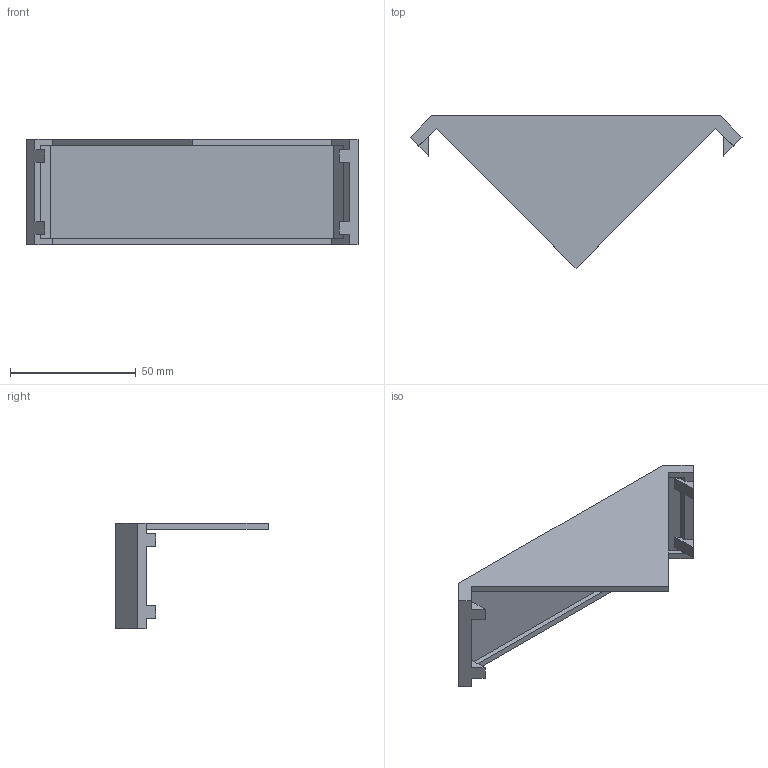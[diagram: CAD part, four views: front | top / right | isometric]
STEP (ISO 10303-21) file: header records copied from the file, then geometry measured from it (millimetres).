
FILE_DESCRIPTION (( 'STEP AP203' ), '1' );
FILE_NAME ('1063cap.STEP', '2016-04-09T15:38:13', ( '' ), ( '' ), 'SwSTEP 2.0', 'SolidWorks 2014', '' );
FILE_SCHEMA (( 'CONFIG_CONTROL_DESIGN' ));
Length unit declared in the file: millimetre
Products named in the file (1): 1063cap
Bounding box: 131.83 x 60.43 x 42 mm (x, y, z)
Volume: 27286.5 mm3; surface area: 20312.5 mm2
Topology: 1 solids, 1 shells, 39 faces, 111 edges, 74 vertices
Faces by surface type: plane 39
Entity records: 1322 total; most frequent: CARTESIAN_POINT 225, ORIENTED_EDGE 222, DIRECTION 191, EDGE_CURVE 111, VECTOR 111, LINE 111, VERTEX_POINT 74, AXIS2_PLACEMENT_3D 40
